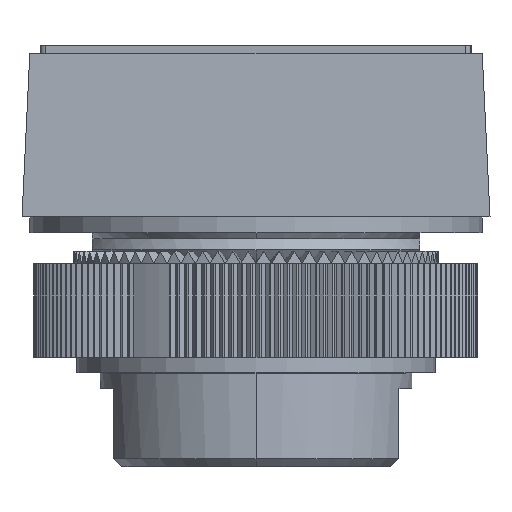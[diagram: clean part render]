
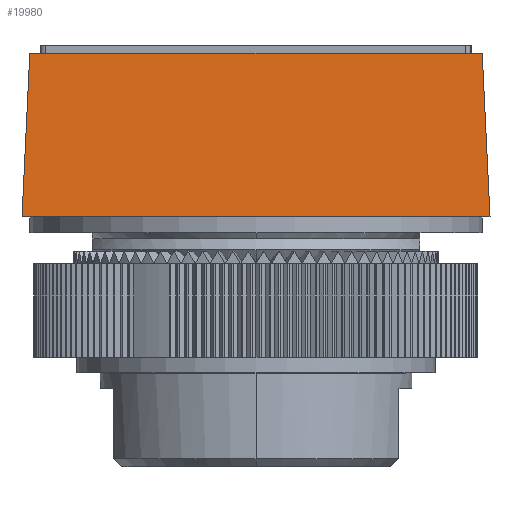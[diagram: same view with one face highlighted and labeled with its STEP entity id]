
A CAD part, front view. The second image highlights one B-rep face of the part: STEP entity #19980.
In plain terms, the highlighted planar face has unit normal (0, -0.999, 0.048).
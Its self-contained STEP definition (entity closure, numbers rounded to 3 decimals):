
#1753 = ORIENTED_EDGE ( 'NONE', *, *, #17154, .T. ) ;
#3888 = AXIS2_PLACEMENT_3D ( 'NONE', #28286, #7774, #28413 ) ;
#4389 = VECTOR ( 'NONE', #18560, 1000. ) ;
#5549 = VERTEX_POINT ( 'NONE', #27229 ) ;
#5937 = DIRECTION ( 'NONE',  ( 1., 0., 0. ) ) ;
#6353 = VECTOR ( 'NONE', #30114, 1000. ) ;
#7774 = DIRECTION ( 'NONE',  ( 0., -0.999, 0.048 ) ) ;
#9134 = CARTESIAN_POINT ( 'NONE',  ( 15., -20.5, 10.5 ) ) ;
#10671 = DIRECTION ( 'NONE',  ( -0.048, 0.048, 0.998 ) ) ;
#10826 = LINE ( 'NONE', #27260, #4389 ) ;
#11950 = FACE_OUTER_BOUND ( 'NONE', #35161, .T. ) ;
#12384 = CARTESIAN_POINT ( 'NONE',  ( -15., -21., 0. ) ) ;
#13367 = CARTESIAN_POINT ( 'NONE',  ( 14.454, -20.454, 11.472 ) ) ;
#14530 = EDGE_CURVE ( 'NONE', #14557, #30974, #16939, .T. ) ;
#14557 = VERTEX_POINT ( 'NONE', #12384 ) ;
#16127 = CARTESIAN_POINT ( 'NONE',  ( 15., -21., 0. ) ) ;
#16939 = LINE ( 'NONE', #29981, #6353 ) ;
#17154 = EDGE_CURVE ( 'NONE', #5549, #14557, #10826, .T. ) ;
#17738 = EDGE_CURVE ( 'NONE', #30974, #17793, #18595, .T. ) ;
#17793 = VERTEX_POINT ( 'NONE', #32033 ) ;
#18560 = DIRECTION ( 'NONE',  ( -0.048, -0.048, -0.998 ) ) ;
#18595 = LINE ( 'NONE', #13367, #33501 ) ;
#19980 = ADVANCED_FACE ( 'NONE', ( #11950 ), #25315, .T. ) ;
#23495 = EDGE_CURVE ( 'NONE', #5549, #17793, #23806, .T. ) ;
#23806 = LINE ( 'NONE', #9134, #28923 ) ;
#25315 = PLANE ( 'NONE',  #3888 ) ;
#26060 = ORIENTED_EDGE ( 'NONE', *, *, #17738, .T. ) ;
#27229 = CARTESIAN_POINT ( 'NONE',  ( -14.5, -20.5, 10.5 ) ) ;
#27260 = CARTESIAN_POINT ( 'NONE',  ( -14.454, -20.454, 11.472 ) ) ;
#28286 = CARTESIAN_POINT ( 'NONE',  ( 0., -20.5, 10.5 ) ) ;
#28413 = DIRECTION ( 'NONE',  ( -1., 0., 0. ) ) ;
#28923 = VECTOR ( 'NONE', #5937, 1000. ) ;
#29719 = ORIENTED_EDGE ( 'NONE', *, *, #14530, .T. ) ;
#29981 = CARTESIAN_POINT ( 'NONE',  ( -15., -21., 0. ) ) ;
#30114 = DIRECTION ( 'NONE',  ( 1., 0., 0. ) ) ;
#30974 = VERTEX_POINT ( 'NONE', #16127 ) ;
#32033 = CARTESIAN_POINT ( 'NONE',  ( 14.5, -20.5, 10.5 ) ) ;
#33501 = VECTOR ( 'NONE', #10671, 1000. ) ;
#35161 = EDGE_LOOP ( 'NONE', ( #1753, #29719, #26060, #35235 ) ) ;
#35235 = ORIENTED_EDGE ( 'NONE', *, *, #23495, .F. ) ;
